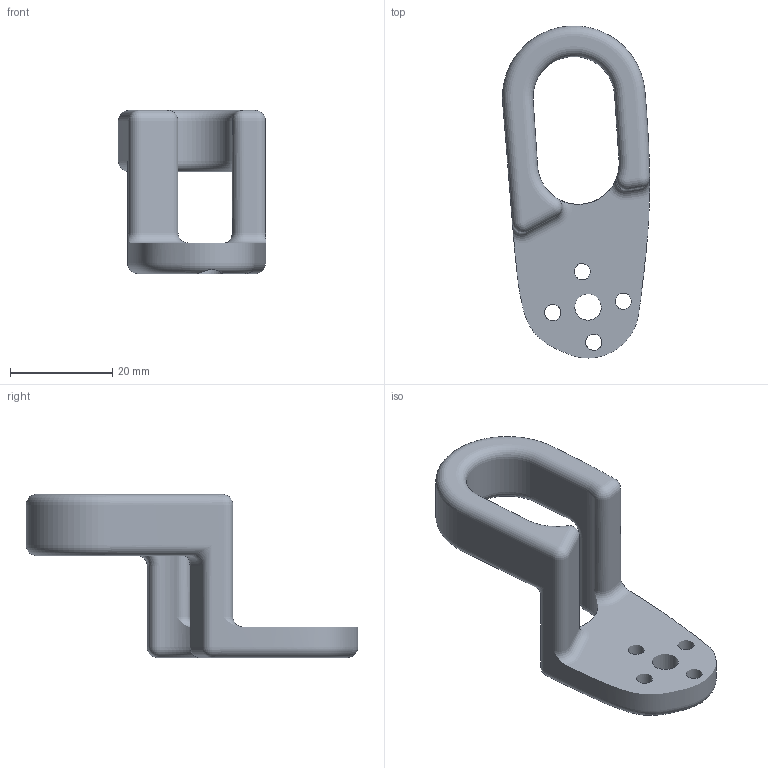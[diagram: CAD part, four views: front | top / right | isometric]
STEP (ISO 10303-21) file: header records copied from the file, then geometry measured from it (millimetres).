
FILE_DESCRIPTION(/* description */ ('STEP AP242 Edition 2','CAx-IF Rec.Pracs.---Representation and Presentation of Product Manufacturing Information (PMI)---4.0---2014-10-13','CAx-IF Rec.Pracs.---3D Tessellated Geometry---0.4---2014-09-14','2;1','CAx-IF Rec.Pracs.---User Defined Attributes---1.5---2016-08-15'),/* implementation_level */ '2;1');
FILE_NAME(/* name */ 'BambuLabA1mini_Leader_SO101 - Part 11',/* time_stamp */ '2026-11-25T15:08:23Z',/* author */ (''),/* organization */ (''),/* preprocessor_version */ 'ST-DEVELOPER v20',/* originating_system */ 'ONSHAPE BY PTC INC, 1.224',/* authorisation */ ' ');
FILE_SCHEMA (('AP242_MANAGED_MODEL_BASED_3D_ENGINEERING_MIM_LF { 1 0 10303 442 3 1 4 }'));
Length unit declared in the file: metre
Products named in the file (1): Part 11
Bounding box: 28.85 x 65.04 x 32 mm (x, y, z)
Surface area: 5742.6 mm2 (no closed solid volume)
Topology: 0 solids, 1 shells, 1 faces, 0 edges, 0 vertices
Faces by surface type: other 1
Entity records: 38 total; most frequent: STYLED_ITEM 2, PRESENTATION_STYLE_ASSIGNMENT 2, SURFACE_STYLE_USAGE 2, SURFACE_SIDE_STYLE 2, SURFACE_STYLE_FILL_AREA 2, FILL_AREA_STYLE 2, FILL_AREA_STYLE_COLOUR 2, DIRECTION 2
